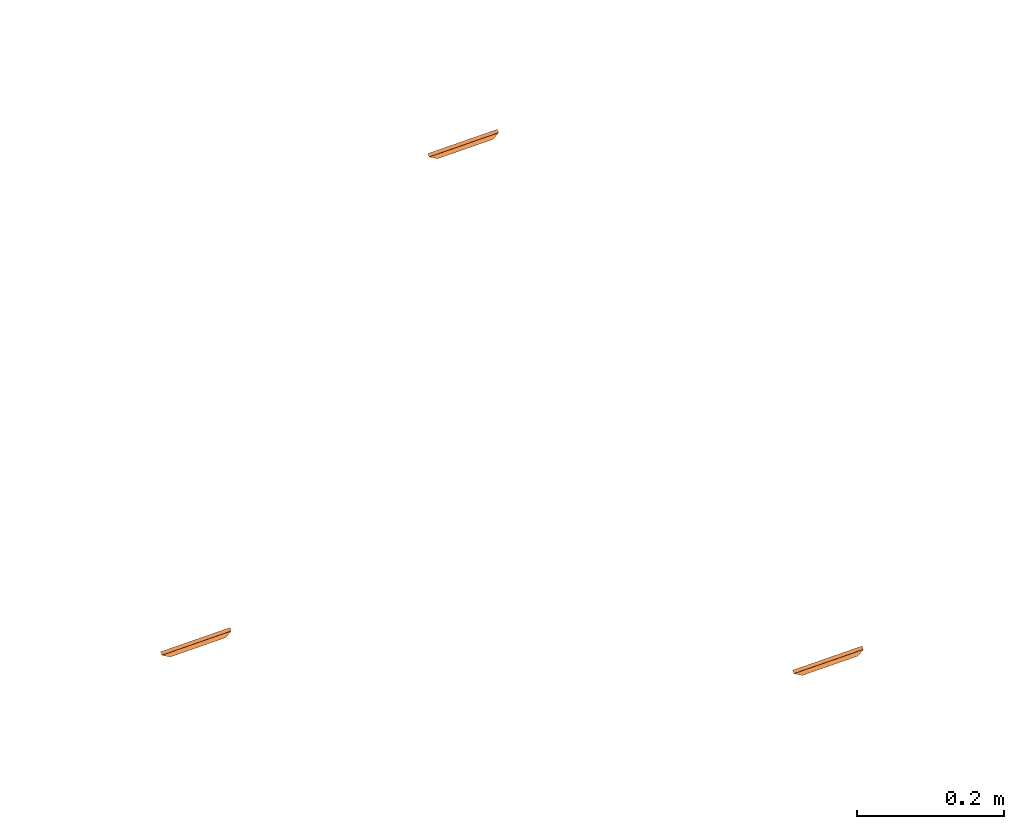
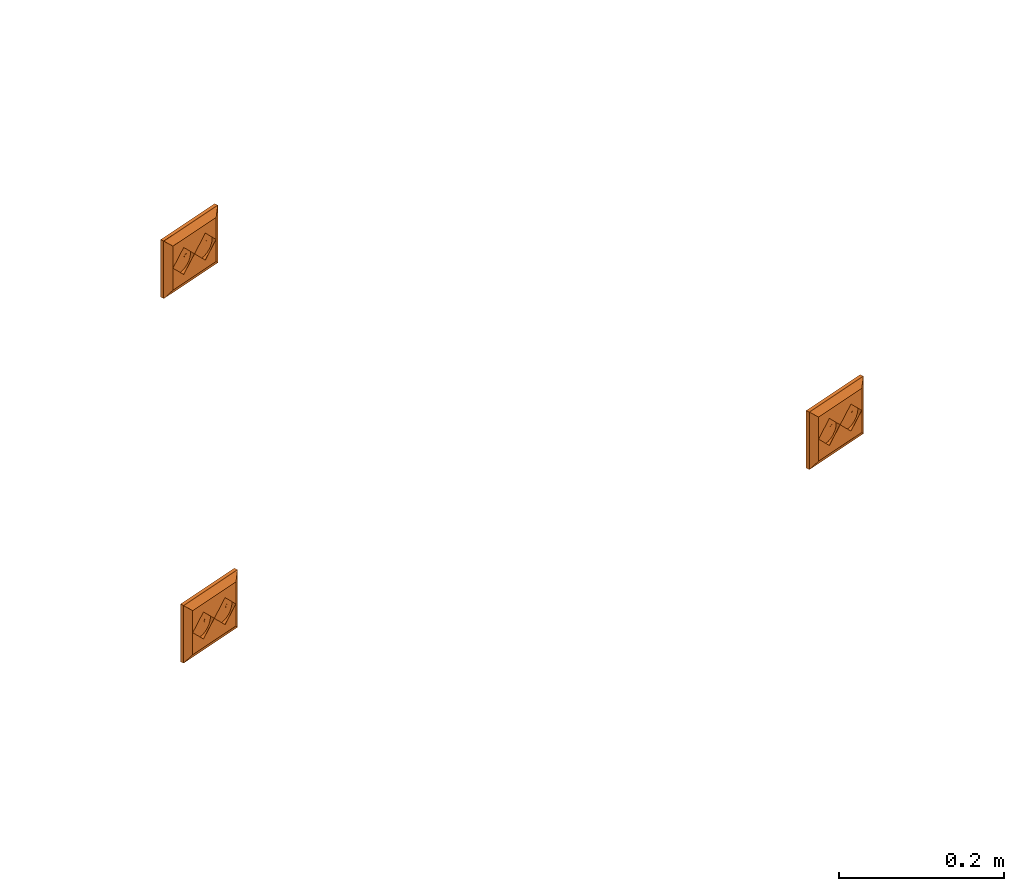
# One storey, part 31 of 33: 3 proxies.
"""IFC2X3 building model written with IfcOpenShell, lengths in millimetres."""

import ifcopenshell
import ifcopenshell.guid

model = None  # the IFC model being written
_history = None  # IfcOwnerHistory: only IFC2X3 demands one
_inside = {}  # id of a spatial element -> (the spatial element, [elements in it])
_under = {}  # id of a project, library or spatial element -> (it, [spatial elements below it])
_declared = {}  # id of a project -> (the project, [libraries it declares])
_typed = {}  # id of a type object -> (the type object, [elements of that type])
_made_of = {}  # id of a material, layer set ... -> (it, [elements and type objects made of it])


def new_model(schema):
    """Start an empty IFC model of exactly this schema.

    Asked for "IFC4X3", IfcOpenShell would pick the latest addendum, in which some entities
    have other attributes; the version numbers below select the first issue.
    IFC2X3 requires an IfcOwnerHistory on every rooted entity: one is made here for all.
    """
    global model, _history
    if schema == "IFC4X3":
        model = ifcopenshell.file(schema_version=(4, 3, 0, 0))
    else:
        model = ifcopenshell.file(schema=schema)
    _inside.clear()
    _under.clear()
    _declared.clear()
    _typed.clear()
    _made_of.clear()
    _history = None
    if model.schema == "IFC2X3":
        org = make("IfcOrganization", Name="unknown")
        user = make(
            "IfcPersonAndOrganization",
            ThePerson=make("IfcPerson", FamilyName="unknown"),
            TheOrganization=org,
        )
        app = make(
            "IfcApplication",
            ApplicationDeveloper=org,
            Version="unknown",
            ApplicationFullName="unknown",
            ApplicationIdentifier="unknown",
        )
        _history = make(
            "IfcOwnerHistory",
            OwningUser=user,
            OwningApplication=app,
            ChangeAction="ADDED",
            CreationDate=0,
        )
    return model


def make(cls, **values):
    """One entity of the class cls with the attributes given. An attribute that is None is left unset."""
    return model.create_entity(
        cls, **{name: value for name, value in values.items() if value is not None}
    )


def entity(cls, *values):
    """Any entity or typed value of the class cls, its attributes in the order of the schema. None: left unset."""
    e = model.create_entity(cls)
    for i, value in enumerate(values):
        if value is not None:
            e[i] = value
    return e


def rooted(cls, **values):
    """An entity with a GlobalId (a new one), such as an element, a storey or a relation."""
    return make(cls, GlobalId=ifcopenshell.guid.new(), OwnerHistory=_history, **values)


def si_unit(unit_type, name, prefix=None):
    """IfcSIUnit, for example si_unit("LENGTHUNIT", "METRE", prefix="MILLI")."""
    return make("IfcSIUnit", UnitType=unit_type, Prefix=prefix, Name=name)


def converted_unit(unit_type, name, factor, base, dimensions=None, offset=None):
    """IfcConversionBasedUnit, such as the inch: factor (a typed value) times the base unit."""
    return make(
        "IfcConversionBasedUnit"
        if offset is None
        else "IfcConversionBasedUnitWithOffset",
        ConversionOffset=offset,
        Dimensions=None
        if dimensions is None
        else entity("IfcDimensionalExponents", *dimensions),
        UnitType=unit_type,
        Name=name,
        ConversionFactor=make(
            "IfcMeasureWithUnit", ValueComponent=factor, UnitComponent=base
        ),
    )


def derived_unit(unit_type, elements):
    """IfcDerivedUnit: a product of units, each with its exponent."""
    return make(
        "IfcDerivedUnit",
        Elements=[
            make("IfcDerivedUnitElement", Unit=unit, Exponent=power)
            for unit, power in elements
        ],
        UnitType=unit_type,
    )


def assignment(units):
    """IfcUnitAssignment: the units of a project."""
    return None if units is None else make("IfcUnitAssignment", Units=units)


def point(xyz):
    """IfcCartesianPoint."""
    return None if xyz is None else make("IfcCartesianPoint", Coordinates=xyz)


def direction(xyz):
    """IfcDirection."""
    return None if xyz is None else make("IfcDirection", DirectionRatios=xyz)


def frame(location, z_axis=None, x_axis=None):
    """IfcAxis2Placement3D, a coordinate frame: its origin and axes. An axis left out is left unset."""
    return make(
        "IfcAxis2Placement3D",
        Location=point(location),
        Axis=direction(z_axis),
        RefDirection=direction(x_axis),
    )


def frame_2d(location, x_axis=None):
    """IfcAxis2Placement2D, a coordinate frame in the plane: its origin and x axis."""
    return make(
        "IfcAxis2Placement2D", Location=point(location), RefDirection=direction(x_axis)
    )


def origin():
    """The frame at (0, 0, 0) with its axes left unset."""
    return frame((0.0, 0.0, 0.0))


def origin_with_axes():
    """The frame at (0, 0, 0) with the z axis (0, 0, 1) and the x axis (1, 0, 0) written out."""
    return frame((0.0, 0.0, 0.0), z_axis=(0.0, 0.0, 1.0), x_axis=(1.0, 0.0, 0.0))


def origin_2d_with_axis():
    """The frame at (0, 0) in the plane with the x axis (1, 0) written out."""
    return frame_2d((0.0, 0.0), x_axis=(1.0, 0.0))


def place(relative_to, where):
    """IfcLocalPlacement: puts the frame where relative to a parent placement (None: the world)."""
    return make(
        "IfcLocalPlacement", PlacementRelTo=relative_to, RelativePlacement=where
    )


def context(
    kind, dimensions, precision=None, world=None, true_north=None, identifier=None
):
    """IfcGeometricRepresentationContext, for example the 3D "Model" context."""
    return make(
        "IfcGeometricRepresentationContext",
        ContextIdentifier=identifier,
        ContextType=kind,
        CoordinateSpaceDimension=dimensions,
        Precision=precision,
        WorldCoordinateSystem=world,
        TrueNorth=true_north,
    )


def subcontext(parent, identifier, kind, view, scale=None):
    """IfcGeometricRepresentationSubContext, for example "Body" below "Model"."""
    return make(
        "IfcGeometricRepresentationSubContext",
        ContextIdentifier=identifier,
        ContextType=kind,
        ParentContext=parent,
        TargetScale=scale,
        TargetView=view,
    )


def project(units=None, contexts=None):
    """IfcProject with its units and contexts."""
    return rooted(
        "IfcProject",
        Name="project",
        RepresentationContexts=contexts,
        UnitsInContext=assignment(units),
    )


def spatial(cls, under=None, at=None, **own):
    """A site, building, storey or space (cls), placed at a placement, below another one or the project."""
    s = rooted(cls, ObjectPlacement=at, **own)
    if under is not None:
        _under.setdefault(under.id(), (under, []))[1].append(s)
    return s


def polyline(points):
    """IfcPolyline through the points."""
    return make("IfcPolyline", Points=[point(p) for p in points])


def circle_curve(where, radius):
    """IfcCircle in the frame where."""
    return make("IfcCircle", Position=where, Radius=radius)


def parameter(value):
    """IfcParameterValue: where a trimmed curve begins or ends, as a parameter of its basis curve."""
    return model.create_entity("IfcParameterValue", value)


def trimmed(basis, trim1, trim2, sense, master):
    """IfcTrimmedCurve: the piece of a basis curve between two trims."""
    return make(
        "IfcTrimmedCurve",
        BasisCurve=basis,
        Trim1=trim1,
        Trim2=trim2,
        SenseAgreement=sense,
        MasterRepresentation=master,
    )


def segment(curve, same_sense, transition):
    """IfcCompositeCurveSegment."""
    return make(
        "IfcCompositeCurveSegment",
        Transition=transition,
        SameSense=same_sense,
        ParentCurve=curve,
    )


def composite_curve(segments, self_intersect=None):
    """IfcCompositeCurve: segments joined end to end."""
    return make("IfcCompositeCurve", Segments=segments, SelfIntersect=self_intersect)


def profile(cls, at=None, kind="AREA", **sizes):
    """A parametric profile (cls). Its sizes go by their IFC names, for example OverallWidth=200.0."""
    return make(cls, ProfileType=kind, Position=at, **sizes)


def rectangle(**sizes):
    """IfcRectangleProfileDef."""
    return profile("IfcRectangleProfileDef", **sizes)


def circle(**sizes):
    """IfcCircleProfileDef."""
    return profile("IfcCircleProfileDef", **sizes)


def hollow_circle(**sizes):
    """IfcCircleHollowProfileDef."""
    return profile("IfcCircleHollowProfileDef", **sizes)


def outline(outer, holes=None, kind="AREA"):
    """IfcArbitraryClosedProfileDef: a profile drawn as a closed curve; with holes, ...WithVoids."""
    if holes is None:
        return make("IfcArbitraryClosedProfileDef", ProfileType=kind, OuterCurve=outer)
    return make(
        "IfcArbitraryProfileDefWithVoids",
        ProfileType=kind,
        OuterCurve=outer,
        InnerCurves=holes,
    )


def extrude(swept, where, along, depth):
    """IfcExtrudedAreaSolid: the profile swept, set in the frame where, extruded along a direction by depth."""
    return make(
        "IfcExtrudedAreaSolid",
        SweptArea=swept,
        Position=where,
        ExtrudedDirection=direction(along),
        Depth=depth,
    )


def shape(context_of_items, identifier, shape_type, items):
    """IfcShapeRepresentation: the items that make up one representation, for example the "Body"."""
    return make(
        "IfcShapeRepresentation",
        ContextOfItems=context_of_items,
        RepresentationIdentifier=identifier,
        RepresentationType=shape_type,
        Items=items,
    )


def source(mapping_origin, context_of_items, identifier, shape_type, items):
    """IfcRepresentationMap: a shape defined once, which mapped items show again and again."""
    return make(
        "IfcRepresentationMap",
        MappingOrigin=mapping_origin,
        MappedRepresentation=shape(context_of_items, identifier, shape_type, items),
    )


def transform(
    local_origin,
    x_axis=None,
    y_axis=None,
    z_axis=None,
    scale=None,
    scale2=None,
    scale3=None,
    uniform=True,
):
    """IfcCartesianTransformationOperator3D, or its non-uniform kind. x_axis, y_axis, z_axis: its Axis1, 2, 3."""
    if uniform:
        return make(
            "IfcCartesianTransformationOperator3D",
            Axis1=direction(x_axis),
            Axis2=direction(y_axis),
            LocalOrigin=point(local_origin),
            Scale=scale,
            Axis3=direction(z_axis),
        )
    return make(
        "IfcCartesianTransformationOperator3DnonUniform",
        Axis1=direction(x_axis),
        Axis2=direction(y_axis),
        LocalOrigin=point(local_origin),
        Scale=scale,
        Axis3=direction(z_axis),
        Scale2=scale2,
        Scale3=scale3,
    )


def mapped(mapping_source, mapping_target):
    """IfcMappedItem: shows the shape of a source again, moved by a transform."""
    return make(
        "IfcMappedItem", MappingSource=mapping_source, MappingTarget=mapping_target
    )


def material(Name=None, Category=None):
    """IfcMaterial."""
    return make("IfcMaterial", Name=Name, Category=Category)


def made_of(thing, what):
    """Note that an element or type object is made of a material, layer set ...; save() writes the relation."""
    if what is not None:
        _made_of.setdefault(what.id(), (what, []))[1].append(thing)
    return thing


def type_object(cls, material=None, **own):
    """A type object (cls), such as IfcWallType, which elements share."""
    return made_of(rooted(cls, **own), material)


def element(
    cls,
    number,
    at=None,
    inside=None,
    cuts=None,
    type_object=None,
    material=None,
    context=None,
    identifier="Body",
    shape_type=None,
    held_by="IfcProductDefinitionShape",
    body=None,
    shapes=None,
    **own,
):
    """One element of the class cls, such as IfcWall. Its Tag is "e" and its number.

    at: its placement. inside: the storey or other place that contains it. cuts: it is an
    opening in that element (IfcRelVoidsElement). A single representation is given by context,
    identifier, shape_type and body (its items); several are given by shapes. held_by: the class
    of the entity that holds the representations. save() writes the other relations.
    """
    e = rooted(cls, Tag="e%d" % number, ObjectPlacement=at, **own)
    if body is not None:
        shapes = [shape(context, identifier, shape_type, body)]
    if shapes is not None:
        e.Representation = make(held_by, Representations=shapes)
    if inside is not None:
        _inside.setdefault(inside.id(), (inside, []))[1].append(e)
    if cuts is not None:
        rooted(
            "IfcRelVoidsElement", RelatingBuildingElement=cuts, RelatedOpeningElement=e
        )
    if type_object is not None:
        _typed.setdefault(type_object.id(), (type_object, []))[1].append(e)
    return made_of(e, material)


def aggregate(whole, parts):
    """IfcRelAggregates: a whole, such as a stair, and the parts it consists of."""
    return rooted("IfcRelAggregates", RelatingObject=whole, RelatedObjects=parts)


def save(model, path):
    """Write the relations noted so far, then the file.

    IfcRelAggregates (storeys below a building ...), IfcRelContainedInSpatialStructure (elements
    in a storey), IfcRelDefinesByType, IfcRelAssociatesMaterial and IfcRelDeclares: one each for
    every whole, place, type object, material and project.
    """
    for whole, parts in _under.values():
        aggregate(whole, parts)
    for where, things in _inside.values():
        rooted(
            "IfcRelContainedInSpatialStructure",
            RelatedElements=things,
            RelatingStructure=where,
        )
    for kind, things in _typed.values():
        rooted("IfcRelDefinesByType", RelatedObjects=things, RelatingType=kind)
    for what, things in _made_of.values():
        rooted("IfcRelAssociatesMaterial", RelatedObjects=things, RelatingMaterial=what)
    for by, libraries in _declared.values():
        rooted("IfcRelDeclares", RelatingContext=by, RelatedDefinitions=libraries)
    model.write(path)


model = new_model("IFC2X3")

# Units and contexts
plan_context = context("Plan", 3, precision=1e-05, world=origin_with_axes())
model_context = context("Model", 3, precision=0.01, world=origin(), true_north=direction((6.12323399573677e-17, 1.0)))
body_context = subcontext(model_context, "Body", "Model", "MODEL_VIEW")
ifc_project = project(units=[converted_unit("PLANEANGLEUNIT", "DEGREE", entity("IfcPositiveLengthMeasure", 0.0174532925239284), si_unit("PLANEANGLEUNIT", "RADIAN"), dimensions=[0, 0, 0, 0, 0, 0, 0]), si_unit("AREAUNIT", "SQUARE_METRE"), si_unit("LENGTHUNIT", "METRE", prefix="MILLI"), si_unit("MASSUNIT", "GRAM", prefix="KILO"), si_unit("POWERUNIT", "WATT"), si_unit("PRESSUREUNIT", "PASCAL", prefix="KILO"), si_unit("FORCEUNIT", "NEWTON", prefix="KILO"), si_unit("ELECTRICVOLTAGEUNIT", "VOLT"), si_unit("ELECTRICCURRENTUNIT", "AMPERE"), si_unit("THERMODYNAMICTEMPERATUREUNIT", "DEGREE_CELSIUS"), si_unit("TIMEUNIT", "SECOND"), si_unit("VOLUMEUNIT", "CUBIC_METRE"), derived_unit("LINEARVELOCITYUNIT", [(si_unit("LENGTHUNIT", "METRE"), 1), (si_unit("TIMEUNIT", "SECOND"), -1)]), derived_unit("VOLUMETRICFLOWRATEUNIT", [(si_unit("VOLUMEUNIT", "CUBIC_METRE"), 1), (si_unit("TIMEUNIT", "SECOND"), -1)]), derived_unit("THERMALTRANSMITTANCEUNIT", [(si_unit("POWERUNIT", "WATT"), 1), (si_unit("THERMODYNAMICTEMPERATUREUNIT", "KELVIN"), -1), (si_unit("AREAUNIT", "SQUARE_METRE"), -1)]), derived_unit("SOUNDPRESSUREUNIT", [(si_unit("PRESSUREUNIT", "PASCAL"), 1)])], contexts=[model_context, plan_context])

# Site, building, storey
site_placement = place(None, frame((-0.219946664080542, 0.12226179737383, 0.0), z_axis=(0.0, 0.0, 1.0), x_axis=(-0.160236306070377, 0.987078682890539, 0.0)))
site = spatial("IfcSite", under=ifc_project, at=site_placement, Name="Default", CompositionType="ELEMENT")
building_placement = place(site_placement, origin_with_axes())
building = spatial("IfcBuilding", under=site, at=building_placement, CompositionType="ELEMENT")
storey_placement = place(building_placement, frame((0.0, 0.0, 59000.0), z_axis=(0.0, 0.0, 1.0), x_axis=(1.0, 0.0, 0.0)))
storey = spatial("IfcBuildingStorey", under=building, at=storey_placement, Name="Nivå F", CompositionType="ELEMENT", Elevation=59000.0)

# Proxies
ifc_material = material(Name="<Unnamed>")
building_element_proxy_type = type_object("IfcBuildingElementProxyType", Name="Dobbel stikk vegg innf 2P+J hor PH:RECESSED-SOCKET-2(HOR)", PredefinedType="NOTDEFINED", material=ifc_material)
shared_shape = source(origin(), body_context, "Body", "SweptSolid", [
    extrude(outline(composite_curve([segment(polyline([(-6.66666666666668, -6.66666666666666), (13.3333333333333, -6.66666666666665)]), True, "CONTINUOUS"), segment(trimmed(circle_curve(frame_2d((13.3333333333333, 13.3333333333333), x_axis=(0.0, -1.0)), 20.0), [parameter(270.0)], [parameter(5.08888749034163e-14)], True, "PARAMETER"), False, "CONTINUOUS"), segment(polyline([(-6.66666666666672, 13.3333333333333), (-6.66666666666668, -6.66666666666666)]), True, "CONTINUOUS")], self_intersect=False)), frame((33.3333333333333, 10.9, 13.3933333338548), z_axis=(0.0, 1.0, 0.0), x_axis=(0.0, 0.0, -1.0)), (0.0, 0.0, 1.0), 0.200000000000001),
    extrude(outline(composite_curve([segment(polyline([(-6.66666666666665, -6.66666666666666), (13.3333333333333, -6.66666666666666)]), True, "CONTINUOUS"), segment(trimmed(circle_curve(frame_2d((13.3333333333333, 13.3333333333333), x_axis=(-1.0, 0.0)), 20.0), [parameter(360.0)], [parameter(90.0)], True, "PARAMETER"), False, "CONTINUOUS"), segment(polyline([(-6.66666666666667, 13.3333333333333), (-6.66666666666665, -6.66666666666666)]), True, "CONTINUOUS")], self_intersect=False)), frame((33.3333333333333, 10.9, -13.3233333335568), z_axis=(0.0, 1.0, 0.0), x_axis=(-1.0, 0.0, 0.0)), (0.0, 0.0, 1.0), 0.200000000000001),
    extrude(outline(composite_curve([segment(polyline([(-6.66666666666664, -6.66666666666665), (13.3333333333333, -6.66666666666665)]), True, "CONTINUOUS"), segment(trimmed(circle_curve(frame_2d((13.3333333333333, 13.3333333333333), x_axis=(-1.0, 0.0)), 20.0), [parameter(0.0)], [parameter(89.9999999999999)], True, "PARAMETER"), False, "CONTINUOUS"), segment(polyline([(-6.66666666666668, 13.3333333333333), (-6.66666666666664, -6.66666666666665)]), True, "CONTINUOUS")], self_intersect=False)), frame((6.66666666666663, 10.9, 13.3433333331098), z_axis=(0.0, 1.0, 0.0), x_axis=(1.0, 0.0, 0.0)), (0.0, 0.0, 1.0), 0.200000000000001),
    extrude(outline(composite_curve([segment(polyline([(-6.66666666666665, -6.66666666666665), (13.3333333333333, -6.66666666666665)]), True, "CONTINUOUS"), segment(trimmed(circle_curve(frame_2d((13.3333333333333, 13.3333333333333), x_axis=(-1.0, 0.0)), 20.0), [parameter(0.0)], [parameter(90.0)], True, "PARAMETER"), False, "CONTINUOUS"), segment(polyline([(-6.66666666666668, 13.3333333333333), (-6.66666666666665, -6.66666666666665)]), True, "CONTINUOUS")], self_intersect=False)), frame((33.3333333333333, 10.9, -13.3833333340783), z_axis=(0.0, 1.0, 0.0), x_axis=(-1.0, 0.0, 0.0)), (0.0, 0.0, 1.0), 0.200000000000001),
    extrude(outline(composite_curve([segment(polyline([(-6.66666666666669, -6.66666666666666), (13.3333333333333, -6.66666666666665)]), True, "CONTINUOUS"), segment(trimmed(circle_curve(frame_2d((13.3333333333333, 13.3333333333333), x_axis=(0.0, -1.0)), 20.0), [parameter(270.0)], [parameter(5.08888749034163e-14)], True, "PARAMETER"), False, "CONTINUOUS"), segment(polyline([(-6.66666666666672, 13.3333333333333), (-6.66666666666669, -6.66666666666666)]), True, "CONTINUOUS")], self_intersect=False)), frame((33.3333333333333, 10.9, 13.3333333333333), z_axis=(0.0, 1.0, 0.0), x_axis=(0.0, 0.0, -1.0)), (0.0, 0.0, 1.0), 0.200000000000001),
    extrude(outline(composite_curve([segment(polyline([(-6.66666666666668, -6.66666666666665), (13.3333333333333, -6.66666666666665)]), True, "CONTINUOUS"), segment(trimmed(circle_curve(frame_2d((13.3333333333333, 13.3333333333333), x_axis=(0.0, -1.0)), 20.0), [parameter(270.0)], [parameter(0.0)], True, "PARAMETER"), False, "CONTINUOUS"), segment(polyline([(-6.66666666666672, 13.3333333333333), (-6.66666666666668, -6.66666666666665)]), True, "CONTINUOUS")], self_intersect=False)), frame((6.66666666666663, 10.9, -13.3333333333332), z_axis=(0.0, 1.0, 0.0), x_axis=(0.0, 0.0, 1.0)), (0.0, 0.0, 1.0), 0.200000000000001),
    extrude(outline(composite_curve([segment(polyline([(-6.66666666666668, -6.66666666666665), (13.3333333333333, -6.66666666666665)]), True, "CONTINUOUS"), segment(trimmed(circle_curve(frame_2d((13.3333333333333, 13.3333333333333), x_axis=(0.0, -1.0)), 20.0), [parameter(270.0)], [parameter(0.0)], True, "PARAMETER"), False, "CONTINUOUS"), segment(polyline([(-6.66666666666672, 13.3333333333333), (-6.66666666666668, -6.66666666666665)]), True, "CONTINUOUS")], self_intersect=False)), frame((-6.66666666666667, 10.9, 13.3933333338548), z_axis=(0.0, 1.0, 0.0), x_axis=(0.0, 0.0, -1.0)), (0.0, 0.0, 1.0), 0.200000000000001),
    extrude(outline(composite_curve([segment(polyline([(-6.66666666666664, -6.66666666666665), (13.3333333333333, -6.66666666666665)]), True, "CONTINUOUS"), segment(trimmed(circle_curve(frame_2d((13.3333333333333, 13.3333333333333), x_axis=(-1.0, 0.0)), 20.0), [parameter(0.0)], [parameter(90.0)], True, "PARAMETER"), False, "CONTINUOUS"), segment(polyline([(-6.66666666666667, 13.3333333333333), (-6.66666666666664, -6.66666666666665)]), True, "CONTINUOUS")], self_intersect=False)), frame((-6.66666666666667, 10.9, -13.3233333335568), z_axis=(0.0, 1.0, 0.0), x_axis=(-1.0, 0.0, 0.0)), (0.0, 0.0, 1.0), 0.200000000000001),
    extrude(outline(composite_curve([segment(polyline([(-6.66666666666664, -6.66666666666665), (13.3333333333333, -6.66666666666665)]), True, "CONTINUOUS"), segment(trimmed(circle_curve(frame_2d((13.3333333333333, 13.3333333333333), x_axis=(-1.0, 0.0)), 20.0), [parameter(0.0)], [parameter(89.9999999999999)], True, "PARAMETER"), False, "CONTINUOUS"), segment(polyline([(-6.66666666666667, 13.3333333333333), (-6.66666666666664, -6.66666666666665)]), True, "CONTINUOUS")], self_intersect=False)), frame((-33.3333333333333, 10.9, 13.3433333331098), z_axis=(0.0, 1.0, 0.0), x_axis=(1.0, 0.0, 0.0)), (0.0, 0.0, 1.0), 0.200000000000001),
    extrude(outline(composite_curve([segment(polyline([(-6.66666666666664, -6.66666666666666), (13.3333333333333, -6.66666666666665)]), True, "CONTINUOUS"), segment(trimmed(circle_curve(frame_2d((13.3333333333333, 13.3333333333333), x_axis=(-1.0, 0.0)), 20.0), [parameter(0.0)], [parameter(90.0)], True, "PARAMETER"), False, "CONTINUOUS"), segment(polyline([(-6.66666666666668, 13.3333333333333), (-6.66666666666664, -6.66666666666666)]), True, "CONTINUOUS")], self_intersect=False)), frame((-6.66666666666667, 10.9, -13.3833333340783), z_axis=(0.0, 1.0, 0.0), x_axis=(-1.0, 0.0, 0.0)), (0.0, 0.0, 1.0), 0.200000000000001),
    extrude(outline(composite_curve([segment(polyline([(-6.66666666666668, -6.66666666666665), (13.3333333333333, -6.66666666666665)]), True, "CONTINUOUS"), segment(trimmed(circle_curve(frame_2d((13.3333333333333, 13.3333333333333), x_axis=(0.0, -1.0)), 20.0), [parameter(270.0)], [parameter(0.0)], True, "PARAMETER"), False, "CONTINUOUS"), segment(polyline([(-6.66666666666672, 13.3333333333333), (-6.66666666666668, -6.66666666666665)]), True, "CONTINUOUS")], self_intersect=False)), frame((-6.66666666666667, 10.9, 13.3333333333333), z_axis=(0.0, 1.0, 0.0), x_axis=(0.0, 0.0, -1.0)), (0.0, 0.0, 1.0), 0.200000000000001),
    extrude(outline(composite_curve([segment(polyline([(-6.66666666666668, -6.66666666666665), (13.3333333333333, -6.66666666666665)]), True, "CONTINUOUS"), segment(trimmed(circle_curve(frame_2d((13.3333333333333, 13.3333333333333), x_axis=(0.0, -1.0)), 20.0), [parameter(270.0)], [parameter(0.0)], True, "PARAMETER"), False, "CONTINUOUS"), segment(polyline([(-6.66666666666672, 13.3333333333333), (-6.66666666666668, -6.66666666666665)]), True, "CONTINUOUS")], self_intersect=False)), frame((-33.3333333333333, 10.9, -13.3333333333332), z_axis=(0.0, 1.0, 0.0), x_axis=(0.0, 0.0, 1.0)), (0.0, 0.0, 1.0), 0.200000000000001),
    extrude(rectangle(XDim=0.200000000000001, YDim=40.0, at=origin_2d_with_axis()), frame((20.0, 11.0, 20.0099999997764), z_axis=(0.0, 0.0, 1.0), x_axis=(0.0, -1.0, 0.0)), (0.0, 0.0, 1.0), 12.5),
    extrude(rectangle(XDim=0.200000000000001, YDim=40.0, at=origin_2d_with_axis()), frame((20.0, 11.0, -32.4999999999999), z_axis=(0.0, 0.0, 1.0), x_axis=(0.0, 1.0, 0.0)), (0.0, 0.0, 1.0), 12.5),
    extrude(rectangle(XDim=0.200000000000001, YDim=40.0, at=origin_2d_with_axis()), frame((-20.0, 11.0, 20.0099999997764), z_axis=(0.0, 0.0, 1.0), x_axis=(0.0, -1.0, 0.0)), (0.0, 0.0, 1.0), 12.5),
    extrude(rectangle(XDim=0.200000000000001, YDim=40.0, at=origin_2d_with_axis()), frame((-20.0, 11.0, -32.4999999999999), z_axis=(0.0, 0.0, 1.0), x_axis=(0.0, 1.0, 0.0)), (0.0, 0.0, 1.0), 12.5),
    extrude(outline(polyline([(21.6113592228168, -34.1606374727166), (36.973650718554, -34.1606374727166), (-28.120804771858, 41.7518902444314), (-30.4642051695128, 26.5693847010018), (21.6113592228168, -34.1606374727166)])), frame((0.0, 7.91425070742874, -37.4485504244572), z_axis=(0.0, 0.857492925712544, -0.514495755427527), x_axis=(0.65094455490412, -0.390566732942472, -0.650944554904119)), (0.0, 0.0, 1.0), 0.2),
    extrude(outline(polyline([(-40.0, -5.83095189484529), (40.0, -5.83095189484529), (50.0, 5.83095189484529), (-50.0, 5.8309518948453), (-40.0, -5.83095189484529)])), frame((0.0, 7.91425070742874, 37.4485504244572), z_axis=(0.0, 0.857492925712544, 0.514495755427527), x_axis=(-1.0, 0.0, 0.0)), (0.0, 0.0, 1.0), 0.199999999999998),
    extrude(outline(polyline([(-32.0915665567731, -28.4671978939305), (-16.7292750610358, -28.4671978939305), (25.5821210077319, 20.8759451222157), (23.238720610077, 36.0584506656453), (-32.0915665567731, -28.4671978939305)])), frame((44.9485504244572, 7.91425070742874, 0.0), z_axis=(0.514495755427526, 0.857492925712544, 0.0), x_axis=(-0.650944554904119, 0.390566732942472, 0.650944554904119)), (0.0, 0.0, 1.0), 0.200000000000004),
    extrude(outline(polyline([(-42.5, -5.8309518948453), (42.5, -5.8309518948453), (32.5, 5.83095189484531), (-32.5, 5.8309518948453), (-42.5, -5.8309518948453)])), frame((-44.9485504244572, 7.91425070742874, 0.0), z_axis=(-0.514495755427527, 0.857492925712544, 0.0), x_axis=(0.0, 0.0, 1.0)), (0.0, 0.0, 1.0), 0.2),
    extrude(circle(Radius=2.5, at=frame_2d((0.0, -4.22994972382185e-15), x_axis=(1.0, 0.0))), frame((30.0, 5.4, 0.0), z_axis=(0.0, 1.0, 0.0), x_axis=(0.0, 0.0, 1.0)), (0.0, 0.0, 1.0), 0.2),
    extrude(circle(Radius=2.5, at=frame_2d((0.0, -4.22994972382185e-15), x_axis=(1.0, 0.0))), frame((10.0, 5.4, 0.0), z_axis=(0.0, 1.0, 0.0), x_axis=(0.0, 0.0, 1.0)), (0.0, 0.0, 1.0), 0.2),
    extrude(circle(Radius=2.5, at=frame_2d((0.0, -4.22994972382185e-15), x_axis=(1.0, 0.0))), frame((-10.0, 5.4, 0.0), z_axis=(0.0, 1.0, 0.0), x_axis=(0.0, 0.0, 1.0)), (0.0, 0.0, 1.0), 0.2),
    extrude(circle(Radius=2.5, at=frame_2d((0.0, -4.22994972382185e-15), x_axis=(1.0, 0.0))), frame((-30.0, 5.4, 0.0), z_axis=(0.0, 1.0, 0.0), x_axis=(0.0, 0.0, 1.0)), (0.0, 0.0, 1.0), 0.2),
    extrude(circle(Radius=20.0, at=frame_2d((0.0, -3.38395977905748e-14), x_axis=(1.0, 0.0))), frame((20.0, 4.89999999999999, 0.0), z_axis=(0.0, 1.0, 0.0), x_axis=(0.0, 0.0, 1.0)), (0.0, 0.0, 1.0), 0.2),
    extrude(circle(Radius=20.0, at=frame_2d((0.0, -3.38395977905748e-14), x_axis=(1.0, 0.0))), frame((-20.0, 4.89999999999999, 0.0), z_axis=(0.0, 1.0, 0.0), x_axis=(0.0, 0.0, 1.0)), (0.0, 0.0, 1.0), 0.2),
    extrude(rectangle(XDim=99.9999999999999, YDim=4.99999999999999, at=origin_2d_with_axis()), frame((0.0, 2.5, -42.5)), (0.0, 0.0, 1.0), 84.9999999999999),
    extrude(hollow_circle(Radius=20.0, WallThickness=0.199999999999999, at=frame_2d((0.0, -3.38395977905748e-14), x_axis=(1.0, 0.0))), frame((20.0, 5.0, 0.0), z_axis=(0.0, 1.0, 0.0), x_axis=(0.0, 0.0, 1.0)), (0.0, 0.0, 1.0), 5.99999999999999),
    extrude(hollow_circle(Radius=20.0, WallThickness=0.199999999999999, at=frame_2d((0.0, -3.38395977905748e-14), x_axis=(1.0, 0.0))), frame((-20.0, 5.0, 0.0), z_axis=(0.0, 1.0, 0.0), x_axis=(0.0, 0.0, 1.0)), (0.0, 0.0, 1.0), 5.99999999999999),
])
for number, where, z_axis, x_axis in (
    (1, (782947.763633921, -507464.375260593, 500.0), (0.0, 0.0, 1.0), (-0.173648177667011, 0.984807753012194, 0.0)),
    (2, (783558.292753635, -507931.795732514, 500.0), (0.0, 0.0, 1.0), (-0.173648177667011, 0.984807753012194, 0.0)),
    (3, (782785.329873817, -508308.794918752, 500.0), (0.0, 0.0, 1.0), (-0.173648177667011, 0.984807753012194, 0.0)),
):
    element("IfcBuildingElementProxy", number, at=place(storey_placement, frame(where, z_axis=z_axis, x_axis=x_axis)), inside=storey, type_object=building_element_proxy_type, material=ifc_material, Name="Dobbel stikk vegg innf 2P+J hor PH:RECESSED-SOCKET-2(HOR)", ObjectType="Dobbel stikk vegg innf 2P+J hor PH:RECESSED-SOCKET-2(HOR)", context=body_context, shape_type="MappedRepresentation", body=[
        mapped(shared_shape, transform((0.0, 0.0, 0.0), scale=1.0)),
    ])

save(model, "model.ifc")
